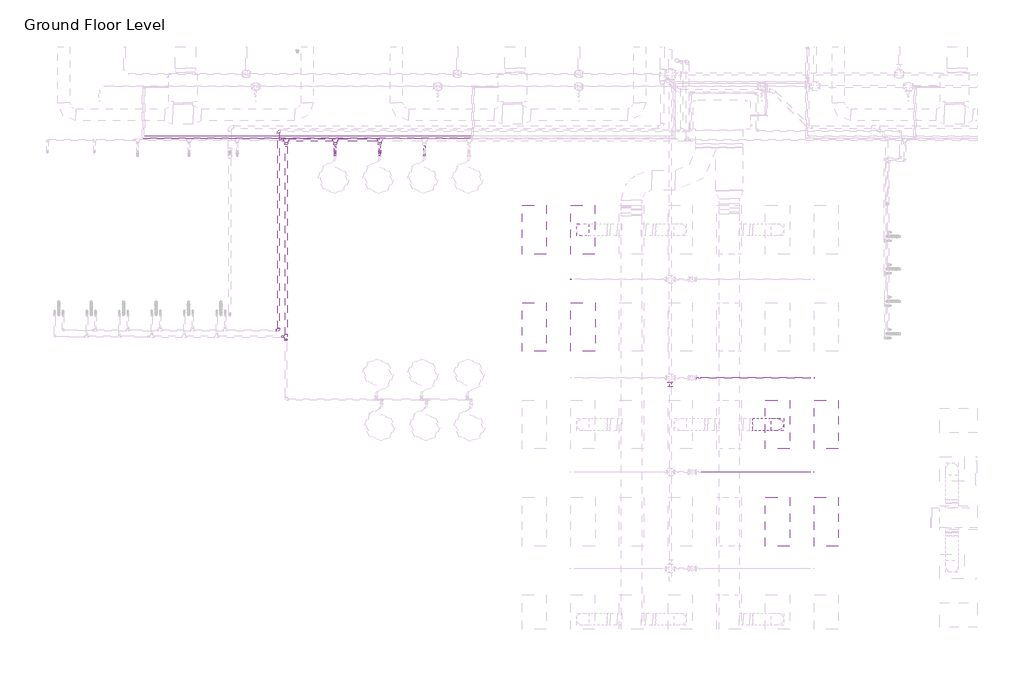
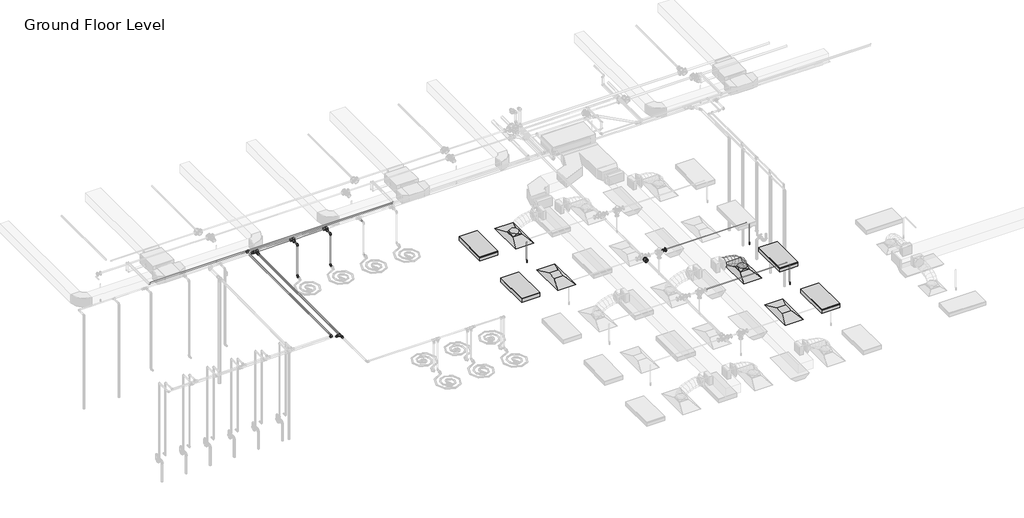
# One storey, part 47 of 74: 19 pipe segments, 18 pipe fittings, 4 air terminals, 4 light fixtures, 3 fire suppression terminals, 2 duct fittings, 1 duct segment.
"""IFC4 building model written with IfcOpenShell, lengths in millimetres."""

from ifc_helpers import new_model, si_unit, point, frame, frame_2d, origin, place, context, project, spatial, circle_curve, ellipse_curve, trimmed, segment, composite_curve, outline, extrude, transform, mapped, element, save
from ifc_brep_helpers import plane_surface, cylinder_surface, advanced_brep
from components import m_return_diffuser_1200x600_1200_x_600_face_300_x_300_d1983ef6, m_rectangular_to_round_transition_angle_45_degree_641efff0, m_sprinkler_dry_pendent_hosted_15_mm_dry_pendent_9bda8e11, m_troffer_light_parabolic_rectangular1_0600x1200mm_4_lamp_86473d4a, m_reducer_flanged_cs_class_150_standard_d42b2106, m_reducer_flanged_cs_class_150_standard_564df86d, standard_517a5a8d, standard_cd25fed3, standard_f1337950, standard_5079833c, standard_92e3b147, standard_bbae78af, standard_69e4ce0e, standard_a995ec02

model = new_model("IFC4")

# Units and contexts
model_context = context("Model", 3, world=origin())
ifc_project = project(units=[si_unit("LENGTHUNIT", "METRE", prefix="MILLI")], contexts=[model_context])

# Site, building, storey
site = spatial("IfcSite", under=ifc_project)
building = spatial("IfcBuilding", under=site)
storey = spatial("IfcBuildingStorey", under=building, Name="Ground Floor Level", Elevation=900.0)

# Air terminals
placement = place(None, origin())
m_return_diffuser_1200x600_1200_x_600_face_300_x_300_shape = m_return_diffuser_1200x600_1200_x_600_face_300_x_300_d1983ef6(model_context)
element("IfcAirTerminal", 1, ObjectType="M_Return Diffuser 1200x600 : 1200 x 600 Face 300 x 300 Connection", at=placement, inside=storey, context=model_context, shape_type="MappedRepresentation", body=[
    mapped(m_return_diffuser_1200x600_1200_x_600_face_300_x_300_shape, transform((-8137.2327605, 8835.2153534, 3650.0), x_axis=(0.0, 1.0, 0.0), y_axis=(-1.0, 0.0, 0.0), z_axis=(0.0, 0.0, 1.0))),
])
element("IfcAirTerminal", 2, ObjectType="M_Return Diffuser 1200x600 : 1200 x 600 Face 300 x 300 Connection", at=placement, inside=storey, context=model_context, shape_type="MappedRepresentation", body=[
    mapped(m_return_diffuser_1200x600_1200_x_600_face_300_x_300_shape, transform((-3337.2327605, 4035.2153534, 3650.0), x_axis=(0.0, 1.0, 0.0), y_axis=(-1.0, 0.0, 0.0), z_axis=(0.0, 0.0, 1.0))),
])
element("IfcAirTerminal", 3, ObjectType="M_Supply Diffuser 1200x600 : 1200 x 600 Face 300 x 300 Connection", at=placement, inside=storey, context=model_context, shape_type="MappedRepresentation", body=[
    mapped(m_return_diffuser_1200x600_1200_x_600_face_300_x_300_shape, transform((-8142.6846929, 11235.2153534, 3650.0), x_axis=(0.0, 1.0, 0.0), y_axis=(-1.0, 0.0, 0.0), z_axis=(0.0, 0.0, 1.0))),
])
element("IfcAirTerminal", 4, ObjectType="M_Supply Diffuser 1200x600 : 1200 x 600 Face 300 x 300 Connection", at=placement, inside=storey, context=model_context, shape_type="MappedRepresentation", body=[
    mapped(m_return_diffuser_1200x600_1200_x_600_face_300_x_300_shape, transform((-3337.2327605, 6435.2153534, 3650.0), x_axis=(0.0, 1.0, 0.0), y_axis=(-1.0, 0.0, 0.0), z_axis=(0.0, 0.0, 1.0))),
])

# Duct fittings
m_rectangular_to_round_transition_angle_45_degree_shape = m_rectangular_to_round_transition_angle_45_degree_641efff0(model_context)
element("IfcDuctFitting", 5, ObjectType="M_Rectangular to Round Transition - Angle : 45 Degree", at=placement, inside=storey, context=model_context, shape_type="MappedRepresentation", body=[
    mapped(m_rectangular_to_round_transition_angle_45_degree_shape, transform((-8142.6846929, 11235.2153534, 3751.6), x_axis=(0.0, 0.0, 1.0), y_axis=(-1.0, 0.0, 0.0), z_axis=(0.0, -1.0, 0.0))),
])
element("IfcDuctFitting", 6, ObjectType="M_Rectangular to Round Transition - Angle : 45 Degree", at=placement, inside=storey, context=model_context, shape_type="MappedRepresentation", body=[
    mapped(m_rectangular_to_round_transition_angle_45_degree_shape, transform((-3337.2327605, 6435.2153534, 3751.6), x_axis=(0.0, 0.0, 1.0), y_axis=(-1.0, 0.0, 0.0), z_axis=(0.0, -1.0, 0.0))),
])

# Duct segment
element("IfcDuctSegment", 7, ObjectType="Flex - Round", at=placement, inside=storey, context=model_context, shape_type="AdvancedBrep", body=[
    advanced_brep(
    [(-3187.2327605, 6435.2153534, 3826.6), (-3337.2327605, 6285.2153534, 3826.6), (-3487.2327605, 6435.2153534, 3826.6), (-3337.2327605, 6585.2153534, 3826.6), (-3187.2327605, 6435.2153534, 3882.1255581), (-3337.2327605, 6285.2153534, 3857.3046173), (-3487.2327605, 6435.2153534, 3832.4836764), (-3337.2327605, 6585.2153534, 3857.3046173), (-3218.4253034, 6435.2153534, 3973.7974983), (-3353.8937102, 6285.2153534, 3906.2695763), (-3489.362117, 6435.2153534, 3838.7416543), (-3353.8937102, 6585.2153534, 3906.2695763), (-3288.1573657, 6435.2153534, 4076.409352), (-3399.7704918, 6285.2153534, 3973.7779999), (-3511.3836179, 6435.2153534, 3871.1466478), (-3399.7704918, 6585.2153534, 3973.7779999), (-3386.082926, 6435.2153534, 4155.7082221), (-3468.7040039, 6285.2153534, 4029.599479), (-3551.3250817, 6435.2153534, 3903.4907359), (-3468.7040039, 6585.2153534, 4029.599479), (-3494.825089, 6435.2153534, 4212.2244369), (-3554.535145, 6285.2153534, 4074.2082221), (-3614.2452011, 6435.2153534, 3936.1920073), (-3554.535145, 6585.2153534, 4074.2082221), (-3609.1145825, 6435.2153534, 4252.3095878), (-3651.104814, 6285.2153534, 4108.0784374), (-3693.0950455, 6435.2153534, 3963.847287), (-3651.104814, 6585.2153534, 4108.0784374), (-3724.8435514, 6435.2153534, 4279.3180942), (-3752.2539093, 6285.2153534, 4131.6843333), (-3779.6642673, 6435.2153534, 3984.0505724), (-3752.2539093, 6585.2153534, 4131.6843333), (-3837.5009499, 6435.2153534, 4294.9499053), (-3851.8233297, 6285.2153534, 4145.500118), (-3866.1457095, 6435.2153534, 3996.0503308), (-3851.8233297, 6585.2153534, 4145.500118), (-3932.3208261, 6435.2153534, 4300.0), (-3936.312488, 6285.2153534, 4150.0), (-3940.3041499, 6435.2153534, 4000.0), (-3936.312488, 6585.2153534, 4150.0), (-3943.6539738, 6435.2153534, 4300.0), (-3943.6539738, 6585.2153534, 4150.0), (-3943.6539738, 6435.2153534, 4000.0), (-3943.6539738, 6285.2153534, 4150.0)],
    [
        (0, 1, circle_curve(frame((-3337.2327605, 6435.2153534, 3826.6), z_axis=(0.0, 0.0, -1.0), x_axis=(1.0, 0.0, 0.0)), 150.0)),
        (1, 2, circle_curve(frame((-3337.2327605, 6435.2153534, 3826.6), z_axis=(0.0, 0.0, -1.0), x_axis=(1.0, 0.0, 0.0)), 150.0)),
        (2, 3, circle_curve(frame((-3337.2327605, 6435.2153534, 3826.6), z_axis=(0.0, 0.0, -1.0), x_axis=(1.0, 0.0, 0.0)), 150.0)),
        (3, 0, circle_curve(frame((-3337.2327605, 6435.2153534, 3826.6), z_axis=(0.0, 0.0, -1.0), x_axis=(1.0, 0.0, 0.0)), 150.0)),
        (0, 4),
        (4, 5, ellipse_curve(frame((-3337.2327605, 6435.2153534, 3857.3046173), z_axis=(0.16325299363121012, 0.0, -0.9865842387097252), x_axis=(-0.9865842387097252, 0.0, -0.16325299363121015)), 152.0397287, 150.0)),
        (5, 1),
        (5, 6, ellipse_curve(frame((-3337.2327605, 6435.2153534, 3857.3046173), z_axis=(0.16325299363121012, 0.0, -0.9865842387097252), x_axis=(-0.9865842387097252, 0.0, -0.16325299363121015)), 152.0397287, 150.0)),
        (6, 2),
        (6, 7, ellipse_curve(frame((-3337.2327605, 6435.2153534, 3857.3046173), z_axis=(0.16325299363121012, 0.0, -0.9865842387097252), x_axis=(-0.9865842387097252, 0.0, -0.16325299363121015)), 152.0397287, 150.0)),
        (7, 3),
        (7, 4, ellipse_curve(frame((-3337.2327605, 6435.2153534, 3857.3046173), z_axis=(0.16325299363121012, 0.0, -0.9865842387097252), x_axis=(-0.9865842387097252, 0.0, -0.16325299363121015)), 152.0397287, 150.0)),
        (4, 8),
        (8, 9, ellipse_curve(frame((-3353.8937102, 6435.2153534, 3906.2695763), z_axis=(0.446123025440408, 0.0, -0.894971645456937), x_axis=(-0.8949716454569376, 0.0, -0.44612302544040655)), 151.3661438, 150.0)),
        (9, 5),
        (9, 10, ellipse_curve(frame((-3353.8937102, 6435.2153534, 3906.2695763), z_axis=(0.446123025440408, 0.0, -0.894971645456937), x_axis=(-0.8949716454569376, 0.0, -0.44612302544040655)), 151.3661438, 150.0)),
        (10, 6),
        (10, 11, ellipse_curve(frame((-3353.8937102, 6435.2153534, 3906.2695763), z_axis=(0.446123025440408, 0.0, -0.894971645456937), x_axis=(-0.8949716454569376, 0.0, -0.44612302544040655)), 151.3661438, 150.0)),
        (11, 7),
        (11, 8, ellipse_curve(frame((-3353.8937102, 6435.2153534, 3906.2695763), z_axis=(0.446123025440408, 0.0, -0.894971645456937), x_axis=(-0.8949716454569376, 0.0, -0.44612302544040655)), 151.3661438, 150.0)),
        (8, 12),
        (12, 13, ellipse_curve(frame((-3399.7704918, 6435.2153534, 3973.7779999), z_axis=(0.6768681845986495, 0.0, -0.7361042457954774), x_axis=(-0.7361042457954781, 0.0, -0.6768681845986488)), 151.626793, 150.0)),
        (13, 9),
        (13, 14, ellipse_curve(frame((-3399.7704918, 6435.2153534, 3973.7779999), z_axis=(0.6768681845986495, 0.0, -0.7361042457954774), x_axis=(-0.7361042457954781, 0.0, -0.6768681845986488)), 151.626793, 150.0)),
        (14, 10),
        (14, 15, ellipse_curve(frame((-3399.7704918, 6435.2153534, 3973.7779999), z_axis=(0.6768681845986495, 0.0, -0.7361042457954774), x_axis=(-0.7361042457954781, 0.0, -0.6768681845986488)), 151.626793, 150.0)),
        (15, 11),
        (15, 12, ellipse_curve(frame((-3399.7704918, 6435.2153534, 3973.7779999), z_axis=(0.6768681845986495, 0.0, -0.7361042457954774), x_axis=(-0.7361042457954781, 0.0, -0.6768681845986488)), 151.626793, 150.0)),
        (12, 16),
        (16, 17, ellipse_curve(frame((-3468.7040039, 6435.2153534, 4029.599479), z_axis=(0.8364668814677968, 0.0, -0.5480174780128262), x_axis=(-0.5480174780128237, 0.0, -0.8364668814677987)), 150.7635818, 150.0)),
        (17, 13),
        (17, 18, ellipse_curve(frame((-3468.7040039, 6435.2153534, 4029.599479), z_axis=(0.8364668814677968, 0.0, -0.5480174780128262), x_axis=(-0.5480174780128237, 0.0, -0.8364668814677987)), 150.7635818, 150.0)),
        (18, 14),
        (18, 19, ellipse_curve(frame((-3468.7040039, 6435.2153534, 4029.599479), z_axis=(0.8364668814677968, 0.0, -0.5480174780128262), x_axis=(-0.5480174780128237, 0.0, -0.8364668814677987)), 150.7635818, 150.0)),
        (19, 15),
        (19, 16, ellipse_curve(frame((-3468.7040039, 6435.2153534, 4029.599479), z_axis=(0.8364668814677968, 0.0, -0.5480174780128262), x_axis=(-0.5480174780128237, 0.0, -0.8364668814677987)), 150.7635818, 150.0)),
        (16, 20),
        (20, 21, ellipse_curve(frame((-3554.535145, 6435.2153534, 4074.2082221), z_axis=(0.9177907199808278, 0.0, -0.3970644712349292), x_axis=(-0.3970644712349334, 0.0, -0.917790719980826)), 150.378743, 150.0)),
        (21, 17),
        (21, 22, ellipse_curve(frame((-3554.535145, 6435.2153534, 4074.2082221), z_axis=(0.9177907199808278, 0.0, -0.3970644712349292), x_axis=(-0.3970644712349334, 0.0, -0.917790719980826)), 150.378743, 150.0)),
        (22, 18),
        (22, 23, ellipse_curve(frame((-3554.535145, 6435.2153534, 4074.2082221), z_axis=(0.9177907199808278, 0.0, -0.3970644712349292), x_axis=(-0.3970644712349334, 0.0, -0.917790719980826)), 150.378743, 150.0)),
        (23, 19),
        (23, 20, ellipse_curve(frame((-3554.535145, 6435.2153534, 4074.2082221), z_axis=(0.9177907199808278, 0.0, -0.3970644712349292), x_axis=(-0.3970644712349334, 0.0, -0.917790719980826)), 150.378743, 150.0)),
        (20, 24),
        (24, 25, ellipse_curve(frame((-3651.104814, 6435.2153534, 4108.0784374), z_axis=(0.9601380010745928, 0.0, -0.2795264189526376), x_axis=(-0.2795264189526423, 0.0, -0.9601380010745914)), 150.2191875, 150.0)),
        (25, 21),
        (25, 26, ellipse_curve(frame((-3651.104814, 6435.2153534, 4108.0784374), z_axis=(0.9601380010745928, 0.0, -0.2795264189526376), x_axis=(-0.2795264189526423, 0.0, -0.9601380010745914)), 150.2191875, 150.0)),
        (26, 22),
        (26, 27, ellipse_curve(frame((-3651.104814, 6435.2153534, 4108.0784374), z_axis=(0.9601380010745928, 0.0, -0.2795264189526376), x_axis=(-0.2795264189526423, 0.0, -0.9601380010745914)), 150.2191875, 150.0)),
        (27, 23),
        (27, 24, ellipse_curve(frame((-3651.104814, 6435.2153534, 4108.0784374), z_axis=(0.9601380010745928, 0.0, -0.2795264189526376), x_axis=(-0.2795264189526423, 0.0, -0.9601380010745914)), 150.2191875, 150.0)),
        (24, 28),
        (28, 29, ellipse_curve(frame((-3752.2539093, 6435.2153534, 4131.6843333), z_axis=(0.9831975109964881, 0.0, -0.18254493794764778), x_axis=(-0.18254493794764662, 0.0, -0.9831975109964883)), 150.1567684, 150.0)),
        (29, 25),
        (29, 30, ellipse_curve(frame((-3752.2539093, 6435.2153534, 4131.6843333), z_axis=(0.9831975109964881, 0.0, -0.18254493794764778), x_axis=(-0.18254493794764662, 0.0, -0.9831975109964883)), 150.1567684, 150.0)),
        (30, 26),
        (30, 31, ellipse_curve(frame((-3752.2539093, 6435.2153534, 4131.6843333), z_axis=(0.9831975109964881, 0.0, -0.18254493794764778), x_axis=(-0.18254493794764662, 0.0, -0.9831975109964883)), 150.1567684, 150.0)),
        (31, 27),
        (31, 28, ellipse_curve(frame((-3752.2539093, 6435.2153534, 4131.6843333), z_axis=(0.9831975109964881, 0.0, -0.18254493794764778), x_axis=(-0.18254493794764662, 0.0, -0.9831975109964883)), 150.1567684, 150.0)),
        (28, 32),
        (32, 33, ellipse_curve(frame((-3851.8233297, 6435.2153534, 4145.500118), z_axis=(0.9954393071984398, 0.0, -0.09539698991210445), x_axis=(-0.09539698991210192, 0.0, -0.99543930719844)), 150.1345046, 150.0)),
        (33, 29),
        (33, 34, ellipse_curve(frame((-3851.8233297, 6435.2153534, 4145.500118), z_axis=(0.9954393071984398, 0.0, -0.09539698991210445), x_axis=(-0.09539698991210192, 0.0, -0.99543930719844)), 150.1345046, 150.0)),
        (34, 30),
        (34, 35, ellipse_curve(frame((-3851.8233297, 6435.2153534, 4145.500118), z_axis=(0.9954393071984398, 0.0, -0.09539698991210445), x_axis=(-0.09539698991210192, 0.0, -0.99543930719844)), 150.1345046, 150.0)),
        (35, 31),
        (35, 32, ellipse_curve(frame((-3851.8233297, 6435.2153534, 4145.500118), z_axis=(0.9954393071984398, 0.0, -0.09539698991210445), x_axis=(-0.09539698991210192, 0.0, -0.99543930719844)), 150.1345046, 150.0)),
        (32, 36),
        (36, 37, ellipse_curve(frame((-3936.312488, 6435.2153534, 4150.0), z_axis=(0.9996461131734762, 0.0, -0.02660166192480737), x_axis=(-0.026601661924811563, 0.0, -0.9996461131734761)), 150.0531018, 150.0)),
        (37, 33),
        (37, 38, ellipse_curve(frame((-3936.312488, 6435.2153534, 4150.0), z_axis=(0.9996461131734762, 0.0, -0.02660166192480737), x_axis=(-0.026601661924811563, 0.0, -0.9996461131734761)), 150.0531018, 150.0)),
        (38, 34),
        (38, 39, ellipse_curve(frame((-3936.312488, 6435.2153534, 4150.0), z_axis=(0.9996461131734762, 0.0, -0.02660166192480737), x_axis=(-0.026601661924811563, 0.0, -0.9996461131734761)), 150.0531018, 150.0)),
        (39, 35),
        (39, 36, ellipse_curve(frame((-3936.312488, 6435.2153534, 4150.0), z_axis=(0.9996461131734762, 0.0, -0.02660166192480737), x_axis=(-0.026601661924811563, 0.0, -0.9996461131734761)), 150.0531018, 150.0)),
        (40, 41, circle_curve(frame((-3943.6539738, 6435.2153534, 4150.0), z_axis=(-1.0, 0.0, 0.0), x_axis=(0.0, 0.0, 1.0)), 150.0)),
        (41, 42, circle_curve(frame((-3943.6539738, 6435.2153534, 4150.0), z_axis=(-1.0, 0.0, 0.0), x_axis=(0.0, 0.0, 1.0)), 150.0)),
        (42, 43, circle_curve(frame((-3943.6539738, 6435.2153534, 4150.0), z_axis=(-1.0, 0.0, 0.0), x_axis=(0.0, 0.0, 1.0)), 150.0)),
        (43, 40, circle_curve(frame((-3943.6539738, 6435.2153534, 4150.0), z_axis=(-1.0, 0.0, 0.0), x_axis=(0.0, 0.0, 1.0)), 150.0)),
        (36, 40),
        (43, 37),
        (42, 38),
        (41, 39),
    ],
    [
        plane_surface(frame((-3337.2327605, 6285.2153534, 3826.6), z_axis=(0.0, 0.0, -1.0), x_axis=(1.0, 0.0, 0.0))),
        cylinder_surface(frame((-3337.2327605, 6435.2153534, 3826.6), z_axis=(0.0, 0.0, -1.0), x_axis=(1.0, 0.0, 0.0)), 150.0),
        cylinder_surface(frame((-3337.2327605, 6435.2153534, 3857.3046173), z_axis=(0.3221256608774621, 0.0, -0.9466969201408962), x_axis=(0.9466969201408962, 0.0, 0.3221256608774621)), 150.0),
        cylinder_surface(frame((-3353.8937102, 6435.2153534, 3906.2695763), z_axis=(0.5620674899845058, 0.0, -0.8270913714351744), x_axis=(0.8270913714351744, 0.0, 0.5620674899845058)), 150.0),
        cylinder_surface(frame((-3399.7704918, 6435.2153534, 3973.7779999), z_axis=(0.7771447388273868, 0.0, -0.6293219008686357), x_axis=(0.6293219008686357, 0.0, 0.7771447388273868)), 150.0),
        cylinder_surface(frame((-3468.7040039, 6435.2153534, 4029.599479), z_axis=(0.8873160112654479, 0.0, -0.4611618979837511), x_axis=(0.4611618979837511, 0.0, 0.8873160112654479)), 150.0),
        cylinder_surface(frame((-3554.535145, 6435.2153534, 4074.2082221), z_axis=(0.9436423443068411, 0.0, -0.3309669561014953), x_axis=(0.3309669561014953, 0.0, 0.9436423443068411)), 150.0),
        cylinder_surface(frame((-3651.104814, 6435.2153534, 4108.0784374), z_axis=(0.973831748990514, 0.0, -0.22727015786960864), x_axis=(0.22727015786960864, 0.0, 0.973831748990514)), 150.0),
        cylinder_surface(frame((-3752.2539093, 6435.2153534, 4131.6843333), z_axis=(0.9905102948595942, 0.0, -0.1374385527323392), x_axis=(0.1374385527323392, 0.0, 0.9905102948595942)), 150.0),
        cylinder_surface(frame((-3851.8233297, 6435.2153534, 4145.500118), z_axis=(0.9985847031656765, 0.0, -0.05318449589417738), x_axis=(0.05318449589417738, 0.0, 0.9985847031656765)), 150.0),
        plane_surface(frame((-3943.6539738, 6435.2153534, 4000.0), z_axis=(-1.0, 0.0, 0.0), x_axis=(0.0, -1.0, 0.0))),
        cylinder_surface(frame((-3936.312488, 6435.2153534, 4150.0), z_axis=(1.0, 0.0, 0.0), x_axis=(0.0, 0.0, 1.0)), 150.0),
    ],
    [
        (0, [[1, 2, 3, 4]]),
        (1, [[-1, 5, 6, 7]]),
        (1, [[-2, -7, 8, 9]]),
        (1, [[-3, -9, 10, 11]]),
        (1, [[-4, -11, 12, -5]]),
        (2, [[-6, 13, 14, 15]]),
        (2, [[-8, -15, 16, 17]]),
        (2, [[-10, -17, 18, 19]]),
        (2, [[-12, -19, 20, -13]]),
        (3, [[-14, 21, 22, 23]]),
        (3, [[-16, -23, 24, 25]]),
        (3, [[-18, -25, 26, 27]]),
        (3, [[-20, -27, 28, -21]]),
        (4, [[-22, 29, 30, 31]]),
        (4, [[-24, -31, 32, 33]]),
        (4, [[-26, -33, 34, 35]]),
        (4, [[-28, -35, 36, -29]]),
        (5, [[-30, 37, 38, 39]]),
        (5, [[-32, -39, 40, 41]]),
        (5, [[-34, -41, 42, 43]]),
        (5, [[-36, -43, 44, -37]]),
        (6, [[-38, 45, 46, 47]]),
        (6, [[-40, -47, 48, 49]]),
        (6, [[-42, -49, 50, 51]]),
        (6, [[-44, -51, 52, -45]]),
        (7, [[-46, 53, 54, 55]]),
        (7, [[-48, -55, 56, 57]]),
        (7, [[-50, -57, 58, 59]]),
        (7, [[-52, -59, 60, -53]]),
        (8, [[-54, 61, 62, 63]]),
        (8, [[-56, -63, 64, 65]]),
        (8, [[-58, -65, 66, 67]]),
        (8, [[-60, -67, 68, -61]]),
        (9, [[-62, 69, 70, 71]]),
        (9, [[-64, -71, 72, 73]]),
        (9, [[-66, -73, 74, 75]]),
        (9, [[-68, -75, 76, -69]]),
        (10, [[77, 78, 79, 80]]),
        (11, [[-70, 81, -80, 82]]),
        (11, [[-72, -82, -79, 83]]),
        (11, [[-74, -83, -78, 84]]),
        (11, [[-76, -84, -77, -81]]),
    ],
),
])

# Fire suppression terminals
m_sprinkler_dry_pendent_hosted_15_mm_dry_pendent_shape = m_sprinkler_dry_pendent_hosted_15_mm_dry_pendent_9bda8e11(model_context)
element("IfcFireSuppressionTerminal", 8, ObjectType="M_Sprinkler - Dry - Pendent - Hosted : 15 mm Dry Pendent", at=placement, inside=storey, context=model_context, shape_type="MappedRepresentation", body=[
    mapped(m_sprinkler_dry_pendent_hosted_15_mm_dry_pendent_shape, transform((-8437.2327605, 10013.008259, 3650.0), x_axis=(1.0, 0.0, 0.0), y_axis=(0.0, -1.0, 0.0), z_axis=(0.0, 0.0, -1.0))),
])
element("IfcFireSuppressionTerminal", 9, ObjectType="M_Sprinkler - Dry - Pendent - Hosted : 15 mm Dry Pendent", at=placement, inside=storey, context=model_context, shape_type="MappedRepresentation", body=[
    mapped(m_sprinkler_dry_pendent_hosted_15_mm_dry_pendent_shape, transform((-2437.2327605, 7582.7040742, 3650.0), x_axis=(1.0, 0.0, 0.0), y_axis=(0.0, -1.0, 0.0), z_axis=(0.0, 0.0, -1.0))),
])
element("IfcFireSuppressionTerminal", 10, ObjectType="M_Sprinkler - Dry - Pendent - Hosted : 15 mm Dry Pendent", at=placement, inside=storey, context=model_context, shape_type="MappedRepresentation", body=[
    mapped(m_sprinkler_dry_pendent_hosted_15_mm_dry_pendent_shape, transform((-2437.2327605, 5261.0372753, 3650.0), x_axis=(1.0, 0.0, 0.0), y_axis=(0.0, -1.0, 0.0), z_axis=(0.0, 0.0, -1.0))),
])

# Light fixtures
m_troffer_light_parabolic_rectangular1_0600x1200mm_4_lamp_shape = m_troffer_light_parabolic_rectangular1_0600x1200mm_4_lamp_86473d4a(model_context)
element("IfcLightFixture", 11, ObjectType="M_Troffer Light - Parabolic Rectangular1 : 0600x1200mm(4 Lamp) - 277V 2", at=placement, inside=storey, context=model_context, shape_type="MappedRepresentation", body=[
    mapped(m_troffer_light_parabolic_rectangular1_0600x1200mm_4_lamp_shape, transform((-9396.6986926, 11253.918855, 3650.0), x_axis=(0.0, 1.0, 0.0), y_axis=(-1.0, 0.0, 0.0), z_axis=(0.0, 0.0, 1.0))),
])
element("IfcLightFixture", 12, ObjectType="M_Troffer Light - Parabolic Rectangular1 : 0600x1200mm(4 Lamp) - 277V 2", at=placement, inside=storey, context=model_context, shape_type="MappedRepresentation", body=[
    mapped(m_troffer_light_parabolic_rectangular1_0600x1200mm_4_lamp_shape, transform((-9396.6986926, 8853.918855, 3650.0), x_axis=(0.0, 1.0, 0.0), y_axis=(-1.0, 0.0, 0.0), z_axis=(0.0, 0.0, 1.0))),
])
element("IfcLightFixture", 13, ObjectType="M_Troffer Light - Parabolic Rectangular1 : 0600x1200mm(4 Lamp) - 277V 2", at=placement, inside=storey, context=model_context, shape_type="MappedRepresentation", body=[
    mapped(m_troffer_light_parabolic_rectangular1_0600x1200mm_4_lamp_shape, transform((-2196.6986926, 6453.918855, 3650.0), x_axis=(0.0, 1.0, 0.0), y_axis=(-1.0, 0.0, 0.0), z_axis=(0.0, 0.0, 1.0))),
])
element("IfcLightFixture", 14, ObjectType="M_Troffer Light - Parabolic Rectangular1 : 0600x1200mm(4 Lamp) - 277V 2", at=placement, inside=storey, context=model_context, shape_type="MappedRepresentation", body=[
    mapped(m_troffer_light_parabolic_rectangular1_0600x1200mm_4_lamp_shape, transform((-2196.6986926, 4053.918855, 3650.0), x_axis=(0.0, 1.0, 0.0), y_axis=(-1.0, 0.0, 0.0), z_axis=(0.0, 0.0, 1.0))),
])

# Pipe fittings
m_reducer_flanged_cs_class_150_standard_shape = m_reducer_flanged_cs_class_150_standard_d42b2106(model_context)
element("IfcPipeFitting", 15, ObjectType="M_Reducer - Flanged - CS - Class 150 : Standard", at=placement, inside=storey, context=model_context, shape_type="MappedRepresentation", body=[
    mapped(m_reducer_flanged_cs_class_150_standard_shape, transform((-5336.5241668, 7582.7040742, 4360.0), x_axis=(1.0, 0.0, 0.0), y_axis=(0.0, 1.0, 0.0), z_axis=(0.0, 0.0, 1.0))),
])
m_reducer_flanged_cs_class_150_standard_2_shape = m_reducer_flanged_cs_class_150_standard_564df86d(model_context)
element("IfcPipeFitting", 16, ObjectType="M_Reducer - Flanged - CS - Class 150 : Standard", at=placement, inside=storey, context=model_context, shape_type="MappedRepresentation", body=[
    mapped(m_reducer_flanged_cs_class_150_standard_2_shape, transform((-5978.130502, 7480.7040742, 4360.0), x_axis=(0.0, -1.0, 0.0), y_axis=(1.0, 0.0, 0.0), z_axis=(0.0, 0.0, 1.0))),
])
standard_shape = standard_517a5a8d(model_context)
element("IfcPipeFitting", 17, ObjectType="M_Elbow - CPVC - Sch 40 : Standard", at=placement, inside=storey, context=model_context, shape_type="MappedRepresentation", body=[
    mapped(standard_shape, transform((-14247.2327605, 13150.8347997, 3200.0), x_axis=(0.0, 1.0, 0.0), y_axis=(0.0, 0.0, 1.0), z_axis=(1.0, 0.0, 0.0))),
])
element("IfcPipeFitting", 18, ObjectType="M_Elbow - CPVC - Sch 40 : Standard", at=placement, inside=storey, context=model_context, shape_type="MappedRepresentation", body=[
    mapped(standard_shape, transform((-14247.2327605, 13150.8347997, 4315.0), x_axis=(0.0, 0.0, 1.0), y_axis=(0.0, 1.0, 0.0), z_axis=(-1.0, 0.0, 0.0))),
])
element("IfcPipeFitting", 19, ObjectType="M_Elbow - CPVC - Sch 40 : Standard", at=placement, inside=storey, context=model_context, shape_type="MappedRepresentation", body=[
    mapped(standard_shape, transform((-13147.2327605, 13150.8347997, 4315.0), x_axis=(0.0, 0.0, 1.0), y_axis=(0.0, 1.0, 0.0), z_axis=(-1.0, 0.0, 0.0))),
])
element("IfcPipeFitting", 20, ObjectType="M_Elbow - CPVC - Sch 40 : Standard", at=placement, inside=storey, context=model_context, shape_type="MappedRepresentation", body=[
    mapped(standard_shape, transform((-13147.2327605, 13150.8347997, 3200.0), x_axis=(0.0, 0.0, -1.0), y_axis=(0.0, -1.0, 0.0), z_axis=(-1.0, 0.0, 0.0))),
])
standard_2_shape = standard_cd25fed3(model_context)
element("IfcPipeFitting", 21, ObjectType="M_Tee - CPVC - Sch 40 : Standard", at=placement, inside=storey, context=model_context, shape_type="MappedRepresentation", body=[
    mapped(standard_2_shape, transform((-14247.2327605, 13449.9865561, 4315.0), x_axis=(-1.0, 0.0, 0.0), y_axis=(0.0, 1.0, 0.0), z_axis=(0.0, 0.0, -1.0))),
])
element("IfcPipeFitting", 22, ObjectType="M_Tee - CPVC - Sch 40 : Standard", at=placement, inside=storey, context=model_context, shape_type="MappedRepresentation", body=[
    mapped(standard_2_shape, transform((-13147.2327605, 13449.9865561, 4315.0), x_axis=(-1.0, 0.0, 0.0), y_axis=(0.0, 1.0, 0.0), z_axis=(0.0, 0.0, -1.0))),
])
element("IfcPipeFitting", 23, ObjectType="M_Tee - CPVC - Sch 40 : Standard", at=placement, inside=storey, context=model_context, shape_type="MappedRepresentation", body=[
    mapped(standard_2_shape, transform((-15455.6408298, 13449.9865561, 4315.0), x_axis=(-1.0, 0.0, 0.0), y_axis=(0.0, 1.0, 0.0), z_axis=(0.0, 0.0, -1.0))),
])
standard_3_shape = standard_f1337950(model_context)
element("IfcPipeFitting", 24, ObjectType="M_Coupling Reducing - CPVC - Sch 40 : Standard", at=placement, inside=storey, context=model_context, shape_type="MappedRepresentation", body=[
    mapped(standard_3_shape, transform((-14247.2327605, 13383.3115561, 4315.0), x_axis=(0.0, -1.0, 0.0), y_axis=(1.0, 0.0, 0.0), z_axis=(0.0, 0.0, 1.0))),
])
element("IfcPipeFitting", 25, ObjectType="M_Coupling Reducing - CPVC - Sch 40 : Standard", at=placement, inside=storey, context=model_context, shape_type="MappedRepresentation", body=[
    mapped(standard_3_shape, transform((-13147.2327605, 13383.3115561, 4315.0), x_axis=(0.0, -1.0, 0.0), y_axis=(1.0, 0.0, 0.0), z_axis=(0.0, 0.0, 1.0))),
])
standard_4_shape = standard_5079833c(model_context)
element("IfcPipeFitting", 26, ObjectType="M_Coupling Reducing - CPVC - Sch 40 : Standard", at=placement, inside=storey, context=model_context, shape_type="MappedRepresentation", body=[
    mapped(standard_4_shape, transform((-15522.3158298, 13449.9865561, 4315.0), x_axis=(-1.0, 0.0, 0.0), y_axis=(0.0, -1.0, 0.0), z_axis=(0.0, 0.0, 1.0))),
])
standard_5_shape = standard_92e3b147(model_context)
element("IfcPipeFitting", 27, ObjectType="M_Coupling Reducing - CPVC - Sch 40 : Standard", at=placement, inside=storey, context=model_context, shape_type="MappedRepresentation", body=[
    mapped(standard_5_shape, transform((-15455.6408298, 13383.3115561, 4315.0), x_axis=(0.0, -1.0, 0.0), y_axis=(1.0, 0.0, 0.0), z_axis=(0.0, 0.0, 1.0))),
])
standard_6_shape = standard_bbae78af(model_context)
element("IfcPipeFitting", 28, ObjectType="M_Tee - CPVC - Sch 40 : Standard", at=placement, inside=storey, context=model_context, shape_type="MappedRepresentation", body=[
    mapped(standard_6_shape, transform((-15455.6408298, 8599.9071734, 4315.0), x_axis=(0.0, 1.0, 0.0), y_axis=(1.0, 0.0, 0.0), z_axis=(0.0, 0.0, -1.0))),
])
standard_7_shape = standard_69e4ce0e(model_context)
element("IfcPipeFitting", 29, ObjectType="M_Elbow - CPVC - Sch 40 : Standard", at=placement, inside=storey, context=model_context, shape_type="MappedRepresentation", body=[
    mapped(standard_7_shape, transform((-15642.8173674, 8755.2153534, 4250.0), x_axis=(1.0, 0.0, 0.0), y_axis=(0.0, 1.0, 0.0), z_axis=(0.0, 0.0, 1.0))),
])
element("IfcPipeFitting", 30, ObjectType="M_Elbow - CPVC - Sch 40 : Standard", at=placement, inside=storey, context=model_context, shape_type="MappedRepresentation", body=[
    mapped(standard_7_shape, transform((-15642.8173674, 13675.2153534, 4250.0), x_axis=(-1.0, 0.0, 0.0), y_axis=(0.0, -1.0, 0.0), z_axis=(0.0, 0.0, 1.0))),
])
standard_8_shape = standard_a995ec02(model_context)
element("IfcPipeFitting", 31, ObjectType="M_Coupling Reducing - CPVC - Sch 40 : Standard", at=placement, inside=storey, context=model_context, shape_type="MappedRepresentation", body=[
    mapped(standard_8_shape, transform((-15455.6408298, 8541.1569734, 4315.0), x_axis=(0.0, -1.0, 0.0), y_axis=(1.0, 0.0, 0.0), z_axis=(0.0, 0.0, 1.0))),
])
element("IfcPipeFitting", 32, ObjectType="M_Coupling Reducing - CPVC - Sch 40 : Standard", at=placement, inside=storey, context=model_context, shape_type="MappedRepresentation", body=[
    mapped(standard_8_shape, transform((-15514.3910298, 8599.9071734, 4315.0), x_axis=(-1.0, 0.0, 0.0), y_axis=(0.0, -1.0, 0.0), z_axis=(0.0, 0.0, 1.0))),
])

# Pipe segments
element("IfcPipeSegment", 33, ObjectType="CPVC", at=placement, inside=storey, context=model_context, shape_type="SweptSolid", body=[
    extrude(outline(composite_curve([segment(trimmed(circle_curve(frame_2d((3200.0, -14247.2327605)), 16.7005), [point((3200.0, -14230.5322605))], [point((3216.7005, -14247.2327605))], False, "CARTESIAN"), True, "CONTINUOUS"), segment(trimmed(circle_curve(frame_2d((3200.0, -14247.2327605)), 16.7005), [point((3216.7005, -14247.2327605))], [point((3200.0, -14263.9332605))], False, "CARTESIAN"), True, "CONTINUOUS"), segment(trimmed(circle_curve(frame_2d((3200.0, -14247.2327605)), 16.7005), [point((3200.0, -14263.9332605))], [point((3183.2995, -14247.2327605))], False, "CARTESIAN"), True, "CONTINUOUS"), segment(trimmed(circle_curve(frame_2d((3200.0, -14247.2327605)), 16.7005), [point((3183.2995, -14247.2327605))], [point((3200.0, -14230.5322605))], False, "CARTESIAN"), True, "CONTINUOUS")], self_intersect=False)), frame((0.0, 13056.8347997, 0.0), z_axis=(0.0, 1.0, 0.0), x_axis=(0.0, 0.0, 1.0)), (0.0, 0.0, 1.0), 50.73745),
])
element("IfcPipeSegment", 34, ObjectType="CPVC", at=placement, inside=storey, context=model_context, shape_type="SweptSolid", body=[
    extrude(outline(composite_curve([segment(trimmed(circle_curve(frame_2d((4315.0, -14247.2327605)), 16.7005), [point((4315.0, -14230.5322605))], [point((4331.7005, -14247.2327605))], False, "CARTESIAN"), True, "CONTINUOUS"), segment(trimmed(circle_curve(frame_2d((4315.0, -14247.2327605)), 16.7005), [point((4331.7005, -14247.2327605))], [point((4315.0, -14263.9332605))], False, "CARTESIAN"), True, "CONTINUOUS"), segment(trimmed(circle_curve(frame_2d((4315.0, -14247.2327605)), 16.7005), [point((4315.0, -14263.9332605))], [point((4298.2995, -14247.2327605))], False, "CARTESIAN"), True, "CONTINUOUS"), segment(trimmed(circle_curve(frame_2d((4315.0, -14247.2327605)), 16.7005), [point((4298.2995, -14247.2327605))], [point((4315.0, -14230.5322605))], False, "CARTESIAN"), True, "CONTINUOUS")], self_intersect=False)), frame((0.0, 13194.0973497, 0.0), z_axis=(0.0, 1.0, 0.0), x_axis=(0.0, 0.0, 1.0)), (0.0, 0.0, 1.0), 109.4153315),
])
element("IfcPipeSegment", 35, ObjectType="CPVC", at=placement, inside=storey, context=model_context, shape_type="SweptSolid", body=[
    extrude(outline(composite_curve([segment(trimmed(circle_curve(frame_2d((-14247.2327605, 13150.8347997)), 16.7005), [point((-14263.9332605, 13150.8347997))], [point((-14247.2327605, 13167.5352997))], False, "CARTESIAN"), True, "CONTINUOUS"), segment(trimmed(circle_curve(frame_2d((-14247.2327605, 13150.8347997)), 16.7005), [point((-14247.2327605, 13167.5352997))], [point((-14230.5322605, 13150.8347997))], False, "CARTESIAN"), True, "CONTINUOUS"), segment(trimmed(circle_curve(frame_2d((-14247.2327605, 13150.8347997)), 16.7005), [point((-14230.5322605, 13150.8347997))], [point((-14247.2327605, 13134.1342997))], False, "CARTESIAN"), True, "CONTINUOUS"), segment(trimmed(circle_curve(frame_2d((-14247.2327605, 13150.8347997)), 16.7005), [point((-14247.2327605, 13134.1342997))], [point((-14263.9332605, 13150.8347997))], False, "CARTESIAN"), True, "CONTINUOUS")], self_intersect=False)), frame((0.0, 0.0, 3243.26255), z_axis=(0.0, 0.0, 1.0), x_axis=(1.0, 0.0, 0.0)), (0.0, 0.0, 1.0), 1028.4749),
])
element("IfcPipeSegment", 36, ObjectType="CPVC", at=placement, inside=storey, context=model_context, shape_type="SweptSolid", body=[
    extrude(outline(composite_curve([segment(trimmed(circle_curve(frame_2d((3200.0, -13147.2327605)), 16.7005), [point((3200.0, -13163.9332605))], [point((3183.2995, -13147.2327605))], False, "CARTESIAN"), True, "CONTINUOUS"), segment(trimmed(circle_curve(frame_2d((3200.0, -13147.2327605)), 16.7005), [point((3183.2995, -13147.2327605))], [point((3200.0, -13130.5322605))], False, "CARTESIAN"), True, "CONTINUOUS"), segment(trimmed(circle_curve(frame_2d((3200.0, -13147.2327605)), 16.7005), [point((3200.0, -13130.5322605))], [point((3216.7005, -13147.2327605))], False, "CARTESIAN"), True, "CONTINUOUS"), segment(trimmed(circle_curve(frame_2d((3200.0, -13147.2327605)), 16.7005), [point((3216.7005, -13147.2327605))], [point((3200.0, -13163.9332605))], False, "CARTESIAN"), True, "CONTINUOUS")], self_intersect=False)), frame((0.0, 13056.8347997, 0.0), z_axis=(0.0, 1.0, 0.0), x_axis=(0.0, 0.0, 1.0)), (0.0, 0.0, 1.0), 50.73745),
])
element("IfcPipeSegment", 37, ObjectType="CPVC", at=placement, inside=storey, context=model_context, shape_type="SweptSolid", body=[
    extrude(outline(composite_curve([segment(trimmed(circle_curve(frame_2d((4315.0, -13147.2327605)), 16.7005), [point((4315.0, -13130.5322605))], [point((4331.7005, -13147.2327605))], False, "CARTESIAN"), True, "CONTINUOUS"), segment(trimmed(circle_curve(frame_2d((4315.0, -13147.2327605)), 16.7005), [point((4331.7005, -13147.2327605))], [point((4315.0, -13163.9332605))], False, "CARTESIAN"), True, "CONTINUOUS"), segment(trimmed(circle_curve(frame_2d((4315.0, -13147.2327605)), 16.7005), [point((4315.0, -13163.9332605))], [point((4298.2995, -13147.2327605))], False, "CARTESIAN"), True, "CONTINUOUS"), segment(trimmed(circle_curve(frame_2d((4315.0, -13147.2327605)), 16.7005), [point((4298.2995, -13147.2327605))], [point((4315.0, -13130.5322605))], False, "CARTESIAN"), True, "CONTINUOUS")], self_intersect=False)), frame((0.0, 13194.0973497, 0.0), z_axis=(0.0, 1.0, 0.0), x_axis=(0.0, 0.0, 1.0)), (0.0, 0.0, 1.0), 109.4153315),
])
element("IfcPipeSegment", 38, ObjectType="CPVC", at=placement, inside=storey, context=model_context, shape_type="SweptSolid", body=[
    extrude(outline(composite_curve([segment(trimmed(circle_curve(frame_2d((-13147.2327605, 13150.8347997)), 16.7005), [point((-13163.9332605, 13150.8347997))], [point((-13147.2327605, 13167.5352997))], False, "CARTESIAN"), True, "CONTINUOUS"), segment(trimmed(circle_curve(frame_2d((-13147.2327605, 13150.8347997)), 16.7005), [point((-13147.2327605, 13167.5352997))], [point((-13130.5322605, 13150.8347997))], False, "CARTESIAN"), True, "CONTINUOUS"), segment(trimmed(circle_curve(frame_2d((-13147.2327605, 13150.8347997)), 16.7005), [point((-13130.5322605, 13150.8347997))], [point((-13147.2327605, 13134.1342997))], False, "CARTESIAN"), True, "CONTINUOUS"), segment(trimmed(circle_curve(frame_2d((-13147.2327605, 13150.8347997)), 16.7005), [point((-13147.2327605, 13134.1342997))], [point((-13163.9332605, 13150.8347997))], False, "CARTESIAN"), True, "CONTINUOUS")], self_intersect=False)), frame((0.0, 0.0, 3243.26255), z_axis=(0.0, 0.0, 1.0), x_axis=(1.0, 0.0, 0.0)), (0.0, 0.0, 1.0), 1028.4749),
])
element("IfcPipeSegment", 39, ObjectType="CPVC", at=placement, inside=storey, context=model_context, shape_type="SweptSolid", body=[
    extrude(outline(composite_curve([segment(trimmed(circle_curve(frame_2d((3200.0, -12047.2327605)), 16.7005), [point((3200.0, -12063.9332605))], [point((3183.2995, -12047.2327605))], False, "CARTESIAN"), True, "CONTINUOUS"), segment(trimmed(circle_curve(frame_2d((3200.0, -12047.2327605)), 16.7005), [point((3183.2995, -12047.2327605))], [point((3200.0, -12030.5322605))], False, "CARTESIAN"), True, "CONTINUOUS"), segment(trimmed(circle_curve(frame_2d((3200.0, -12047.2327605)), 16.7005), [point((3200.0, -12030.5322605))], [point((3216.7005, -12047.2327605))], False, "CARTESIAN"), True, "CONTINUOUS"), segment(trimmed(circle_curve(frame_2d((3200.0, -12047.2327605)), 16.7005), [point((3216.7005, -12047.2327605))], [point((3200.0, -12063.9332605))], False, "CARTESIAN"), True, "CONTINUOUS")], self_intersect=False)), frame((0.0, 13056.8347997, 0.0), z_axis=(0.0, 1.0, 0.0), x_axis=(0.0, 0.0, 1.0)), (0.0, 0.0, 1.0), 50.73745),
])
element("IfcPipeSegment", 40, ObjectType="CPVC", at=placement, inside=storey, context=model_context, shape_type="SweptSolid", body=[
    extrude(outline(composite_curve([segment(trimmed(circle_curve(frame_2d((4315.0, -12047.2327605)), 16.7005), [point((4315.0, -12030.5322605))], [point((4331.7005, -12047.2327605))], False, "CARTESIAN"), True, "CONTINUOUS"), segment(trimmed(circle_curve(frame_2d((4315.0, -12047.2327605)), 16.7005), [point((4331.7005, -12047.2327605))], [point((4315.0, -12063.9332605))], False, "CARTESIAN"), True, "CONTINUOUS"), segment(trimmed(circle_curve(frame_2d((4315.0, -12047.2327605)), 16.7005), [point((4315.0, -12063.9332605))], [point((4298.2995, -12047.2327605))], False, "CARTESIAN"), True, "CONTINUOUS"), segment(trimmed(circle_curve(frame_2d((4315.0, -12047.2327605)), 16.7005), [point((4298.2995, -12047.2327605))], [point((4315.0, -12030.5322605))], False, "CARTESIAN"), True, "CONTINUOUS")], self_intersect=False)), frame((0.0, 13194.0973497, 0.0), z_axis=(0.0, 1.0, 0.0), x_axis=(0.0, 0.0, 1.0)), (0.0, 0.0, 1.0), 109.4153315),
])
element("IfcPipeSegment", 41, ObjectType="CPVC", at=placement, inside=storey, context=model_context, shape_type="SweptSolid", body=[
    extrude(outline(composite_curve([segment(trimmed(circle_curve(frame_2d((13449.9865561, 4315.0)), 30.1625), [point((13419.8240561, 4315.0))], [point((13449.9865561, 4345.1625))], False, "CARTESIAN"), True, "CONTINUOUS"), segment(trimmed(circle_curve(frame_2d((13449.9865561, 4315.0)), 30.1625), [point((13449.9865561, 4345.1625))], [point((13480.1490561, 4315.0))], False, "CARTESIAN"), True, "CONTINUOUS"), segment(trimmed(circle_curve(frame_2d((13449.9865561, 4315.0)), 30.1625), [point((13480.1490561, 4315.0))], [point((13449.9865561, 4284.8375))], False, "CARTESIAN"), True, "CONTINUOUS"), segment(trimmed(circle_curve(frame_2d((13449.9865561, 4315.0)), 30.1625), [point((13449.9865561, 4284.8375))], [point((13419.8240561, 4315.0))], False, "CARTESIAN"), True, "CONTINUOUS")], self_intersect=False)), frame((-15388.9658298, 0.0, 0.0), z_axis=(1.0, 0.0, 0.0), x_axis=(0.0, 1.0, 0.0)), (0.0, 0.0, 1.0), 1075.0580693),
])
element("IfcPipeSegment", 42, ObjectType="CPVC", at=placement, inside=storey, context=model_context, shape_type="SweptSolid", body=[
    extrude(outline(composite_curve([segment(trimmed(circle_curve(frame_2d((13449.9865561, 4315.0)), 30.1625), [point((13419.8240561, 4315.0))], [point((13449.9865561, 4345.1625))], False, "CARTESIAN"), True, "CONTINUOUS"), segment(trimmed(circle_curve(frame_2d((13449.9865561, 4315.0)), 30.1625), [point((13449.9865561, 4345.1625))], [point((13480.1490561, 4315.0))], False, "CARTESIAN"), True, "CONTINUOUS"), segment(trimmed(circle_curve(frame_2d((13449.9865561, 4315.0)), 30.1625), [point((13480.1490561, 4315.0))], [point((13449.9865561, 4284.8375))], False, "CARTESIAN"), True, "CONTINUOUS"), segment(trimmed(circle_curve(frame_2d((13449.9865561, 4315.0)), 30.1625), [point((13449.9865561, 4284.8375))], [point((13419.8240561, 4315.0))], False, "CARTESIAN"), True, "CONTINUOUS")], self_intersect=False)), frame((-14180.5577605, 0.0, 0.0), z_axis=(1.0, 0.0, 0.0), x_axis=(0.0, 1.0, 0.0)), (0.0, 0.0, 1.0), 966.65),
])
element("IfcPipeSegment", 43, ObjectType="CPVC", at=placement, inside=storey, context=model_context, shape_type="SweptSolid", body=[
    extrude(outline(composite_curve([segment(trimmed(circle_curve(frame_2d((4315.0, -15455.6408298)), 24.13), [point((4315.0, -15479.7708298))], [point((4290.87, -15455.6408298))], False, "CARTESIAN"), True, "CONTINUOUS"), segment(trimmed(circle_curve(frame_2d((4315.0, -15455.6408298)), 24.13), [point((4290.87, -15455.6408298))], [point((4315.0, -15431.5108298))], False, "CARTESIAN"), True, "CONTINUOUS"), segment(trimmed(circle_curve(frame_2d((4315.0, -15455.6408298)), 24.13), [point((4315.0, -15431.5108298))], [point((4339.13, -15455.6408298))], False, "CARTESIAN"), True, "CONTINUOUS"), segment(trimmed(circle_curve(frame_2d((4315.0, -15455.6408298)), 24.13), [point((4339.13, -15455.6408298))], [point((4315.0, -15479.7708298))], False, "CARTESIAN"), True, "CONTINUOUS")], self_intersect=False)), frame((0.0, 8658.6573734, 0.0), z_axis=(0.0, 1.0, 0.0), x_axis=(0.0, 0.0, 1.0)), (0.0, 0.0, 1.0), 4633.2354328),
])
element("IfcPipeSegment", 44, ObjectType="CPVC", at=placement, inside=storey, context=model_context, shape_type="SweptSolid", body=[
    extrude(outline(composite_curve([segment(trimmed(circle_curve(frame_2d((4250.0, -15642.8173674)), 21.082), [point((4250.0, -15621.7353674))], [point((4271.082, -15642.8173674))], False, "CARTESIAN"), True, "CONTINUOUS"), segment(trimmed(circle_curve(frame_2d((4250.0, -15642.8173674)), 21.082), [point((4271.082, -15642.8173674))], [point((4250.0, -15663.8993674))], False, "CARTESIAN"), True, "CONTINUOUS"), segment(trimmed(circle_curve(frame_2d((4250.0, -15642.8173674)), 21.082), [point((4250.0, -15663.8993674))], [point((4228.918, -15642.8173674))], False, "CARTESIAN"), True, "CONTINUOUS"), segment(trimmed(circle_curve(frame_2d((4250.0, -15642.8173674)), 21.082), [point((4228.918, -15642.8173674))], [point((4250.0, -15621.7353674))], False, "CARTESIAN"), True, "CONTINUOUS")], self_intersect=False)), frame((0.0, 8813.1591034, 0.0), z_axis=(0.0, 1.0, 0.0), x_axis=(0.0, 0.0, 1.0)), (0.0, 0.0, 1.0), 4804.1125),
])
element("IfcPipeSegment", 45, ObjectType="Copper", at=placement, inside=storey, context=model_context, shape_type="SweptSolid", body=[
    extrude(outline(composite_curve([segment(trimmed(circle_curve(frame_2d((13545.2153534, 4380.0)), 6.5), [point((13538.7153534, 4380.0))], [point((13545.2153534, 4386.5))], False, "CARTESIAN"), True, "CONTINUOUS"), segment(trimmed(circle_curve(frame_2d((13545.2153534, 4380.0)), 6.5), [point((13545.2153534, 4386.5))], [point((13551.7153534, 4380.0))], False, "CARTESIAN"), True, "CONTINUOUS"), segment(trimmed(circle_curve(frame_2d((13545.2153534, 4380.0)), 6.5), [point((13551.7153534, 4380.0))], [point((13545.2153534, 4373.5))], False, "CARTESIAN"), True, "CONTINUOUS"), segment(trimmed(circle_curve(frame_2d((13545.2153534, 4380.0)), 6.5), [point((13545.2153534, 4373.5))], [point((13538.7153534, 4380.0))], False, "CARTESIAN"), True, "CONTINUOUS")], self_intersect=False)), frame((-18931.0452605, 0.0, 0.0), z_axis=(1.0, 0.0, 0.0), x_axis=(0.0, 1.0, 0.0)), (0.0, 0.0, 1.0), 8090.075),
])
element("IfcPipeSegment", 46, ObjectType="Copper", at=placement, inside=storey, context=model_context, shape_type="SweptSolid", body=[
    extrude(outline(composite_curve([segment(trimmed(circle_curve(frame_2d((13494.0185138, 4365.0)), 3.35), [point((13490.6685138, 4365.0))], [point((13494.0185138, 4368.35))], False, "CARTESIAN"), True, "CONTINUOUS"), segment(trimmed(circle_curve(frame_2d((13494.0185138, 4365.0)), 3.35), [point((13494.0185138, 4368.35))], [point((13497.3685138, 4365.0))], False, "CARTESIAN"), True, "CONTINUOUS"), segment(trimmed(circle_curve(frame_2d((13494.0185138, 4365.0)), 3.35), [point((13497.3685138, 4365.0))], [point((13494.0185138, 4361.65))], False, "CARTESIAN"), True, "CONTINUOUS"), segment(trimmed(circle_curve(frame_2d((13494.0185138, 4365.0)), 3.35), [point((13494.0185138, 4361.65))], [point((13490.6685138, 4365.0))], False, "CARTESIAN"), True, "CONTINUOUS")], self_intersect=False)), frame((-18983.8817947, 0.0, 0.0), z_axis=(1.0, 0.0, 0.0), x_axis=(0.0, 1.0, 0.0)), (0.0, 0.0, 1.0), 8096.375),
])
element("IfcPipeSegment", 47, ObjectType="Steel flanged", at=placement, inside=storey, context=model_context, shape_type="SweptSolid", body=[
    extrude(outline(composite_curve([segment(trimmed(circle_curve(frame_2d((-8437.2327605, 10013.008259)), 10.668), [point((-8447.9007605, 10013.008259))], [point((-8437.2327605, 10023.676259))], False, "CARTESIAN"), True, "CONTINUOUS"), segment(trimmed(circle_curve(frame_2d((-8437.2327605, 10013.008259)), 10.668), [point((-8437.2327605, 10023.676259))], [point((-8426.5647605, 10013.008259))], False, "CARTESIAN"), True, "CONTINUOUS"), segment(trimmed(circle_curve(frame_2d((-8437.2327605, 10013.008259)), 10.668), [point((-8426.5647605, 10013.008259))], [point((-8437.2327605, 10002.340259))], False, "CARTESIAN"), True, "CONTINUOUS"), segment(trimmed(circle_curve(frame_2d((-8437.2327605, 10013.008259)), 10.668), [point((-8437.2327605, 10002.340259))], [point((-8447.9007605, 10013.008259))], False, "CARTESIAN"), True, "CONTINUOUS")], self_intersect=False)), frame((0.0, 0.0, 3650.0), z_axis=(0.0, 0.0, 1.0), x_axis=(1.0, 0.0, 0.0)), (0.0, 0.0, 1.0), 616.9914062),
])
element("IfcPipeSegment", 48, ObjectType="Steel flanged", at=placement, inside=storey, context=model_context, shape_type="SweptSolid", body=[
    extrude(outline(composite_curve([segment(trimmed(circle_curve(frame_2d((-2437.2327605, 5261.0372753)), 10.668), [point((-2447.9007605, 5261.0372753))], [point((-2437.2327605, 5271.7052753))], False, "CARTESIAN"), True, "CONTINUOUS"), segment(trimmed(circle_curve(frame_2d((-2437.2327605, 5261.0372753)), 10.668), [point((-2437.2327605, 5271.7052753))], [point((-2426.5647605, 5261.0372753))], False, "CARTESIAN"), True, "CONTINUOUS"), segment(trimmed(circle_curve(frame_2d((-2437.2327605, 5261.0372753)), 10.668), [point((-2426.5647605, 5261.0372753))], [point((-2437.2327605, 5250.3692753))], False, "CARTESIAN"), True, "CONTINUOUS"), segment(trimmed(circle_curve(frame_2d((-2437.2327605, 5261.0372753)), 10.668), [point((-2437.2327605, 5250.3692753))], [point((-2447.9007605, 5261.0372753))], False, "CARTESIAN"), True, "CONTINUOUS")], self_intersect=False)), frame((0.0, 0.0, 3650.0), z_axis=(0.0, 0.0, 1.0), x_axis=(1.0, 0.0, 0.0)), (0.0, 0.0, 1.0), 616.9914063),
])
element("IfcPipeSegment", 49, ObjectType="Steel flanged", at=placement, inside=storey, context=model_context, shape_type="SweptSolid", body=[
    extrude(outline(composite_curve([segment(trimmed(circle_curve(frame_2d((-2437.2327605, 7582.7040742)), 10.668), [point((-2447.9007605, 7582.7040742))], [point((-2437.2327605, 7593.3720742))], False, "CARTESIAN"), True, "CONTINUOUS"), segment(trimmed(circle_curve(frame_2d((-2437.2327605, 7582.7040742)), 10.668), [point((-2437.2327605, 7593.3720742))], [point((-2426.5647605, 7582.7040742))], False, "CARTESIAN"), True, "CONTINUOUS"), segment(trimmed(circle_curve(frame_2d((-2437.2327605, 7582.7040742)), 10.668), [point((-2426.5647605, 7582.7040742))], [point((-2437.2327605, 7572.0360742))], False, "CARTESIAN"), True, "CONTINUOUS"), segment(trimmed(circle_curve(frame_2d((-2437.2327605, 7582.7040742)), 10.668), [point((-2437.2327605, 7572.0360742))], [point((-2447.9007605, 7582.7040742))], False, "CARTESIAN"), True, "CONTINUOUS")], self_intersect=False)), frame((0.0, 0.0, 3650.0), z_axis=(0.0, 0.0, 1.0), x_axis=(1.0, 0.0, 0.0)), (0.0, 0.0, 1.0), 616.9914063),
])
element("IfcPipeSegment", 50, ObjectType="Steel flanged", at=placement, inside=storey, context=model_context, shape_type="SweptSolid", body=[
    extrude(outline(composite_curve([segment(trimmed(circle_curve(frame_2d((5261.0372753, 4360.0)), 10.668), [point((5271.7052753, 4360.0))], [point((5261.0372753, 4349.332))], False, "CARTESIAN"), True, "CONTINUOUS"), segment(trimmed(circle_curve(frame_2d((5261.0372753, 4360.0)), 10.668), [point((5261.0372753, 4349.332))], [point((5250.3692753, 4360.0))], False, "CARTESIAN"), True, "CONTINUOUS"), segment(trimmed(circle_curve(frame_2d((5261.0372753, 4360.0)), 10.668), [point((5250.3692753, 4360.0))], [point((5261.0372753, 4370.668))], False, "CARTESIAN"), True, "CONTINUOUS"), segment(trimmed(circle_curve(frame_2d((5261.0372753, 4360.0)), 10.668), [point((5261.0372753, 4370.668))], [point((5271.7052753, 4360.0))], False, "CARTESIAN"), True, "CONTINUOUS")], self_intersect=False)), frame((-5222.5241668, 0.0, 0.0), z_axis=(1.0, 0.0, 0.0), x_axis=(0.0, 1.0, 0.0)), (0.0, 0.0, 1.0), 2692.2828125),
])
element("IfcPipeSegment", 51, ObjectType="Steel flanged", at=placement, inside=storey, context=model_context, shape_type="SweptSolid", body=[
    extrude(outline(composite_curve([segment(trimmed(circle_curve(frame_2d((7582.7040742, 4360.0)), 10.668), [point((7593.3720742, 4360.0))], [point((7582.7040742, 4349.332))], False, "CARTESIAN"), True, "CONTINUOUS"), segment(trimmed(circle_curve(frame_2d((7582.7040742, 4360.0)), 10.668), [point((7582.7040742, 4349.332))], [point((7572.0360742, 4360.0))], False, "CARTESIAN"), True, "CONTINUOUS"), segment(trimmed(circle_curve(frame_2d((7582.7040742, 4360.0)), 10.668), [point((7572.0360742, 4360.0))], [point((7582.7040742, 4370.668))], False, "CARTESIAN"), True, "CONTINUOUS"), segment(trimmed(circle_curve(frame_2d((7582.7040742, 4360.0)), 10.668), [point((7582.7040742, 4370.668))], [point((7593.3720742, 4360.0))], False, "CARTESIAN"), True, "CONTINUOUS")], self_intersect=False)), frame((-5222.5241668, 0.0, 0.0), z_axis=(1.0, 0.0, 0.0), x_axis=(0.0, 1.0, 0.0)), (0.0, 0.0, 1.0), 2692.2828125),
])

save(model, "model.ifc")
